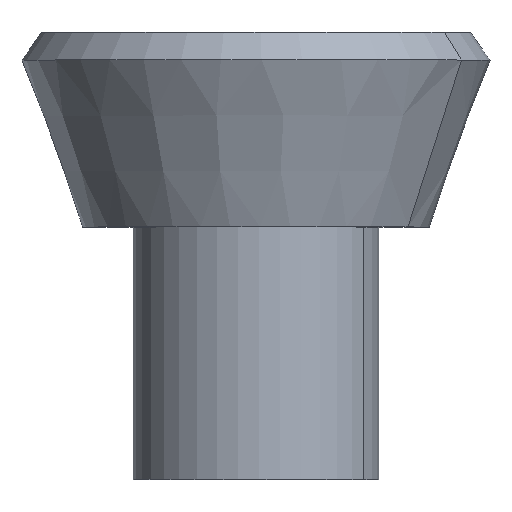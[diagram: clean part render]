
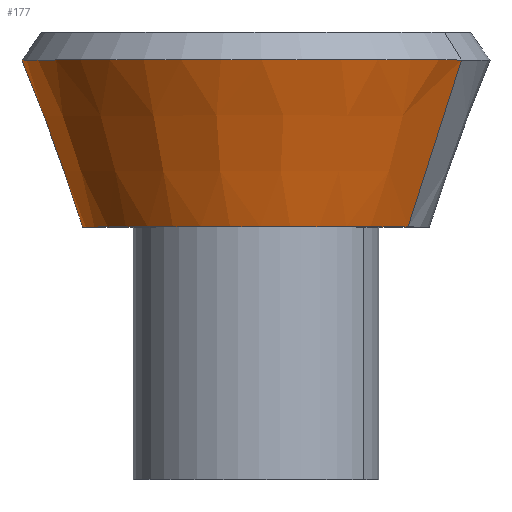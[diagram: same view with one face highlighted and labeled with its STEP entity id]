
A CAD part, top view. The second image highlights one B-rep face of the part: STEP entity #177.
In plain terms, the highlighted conical face has half-angle 20 degrees and reference radius 103 mm.
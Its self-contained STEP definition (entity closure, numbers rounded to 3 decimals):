
#114=CARTESIAN_POINT('Axis2P3D Location',(0.,0.,0.)) ;
#118=CARTESIAN_POINT('Vertex',(90.391,0.,49.381)) ;
#120=CARTESIAN_POINT('Vertex',(-90.391,0.,-49.381)) ;
#147=CARTESIAN_POINT('Axis2P3D Location',(0.,0.,0.)) ;
#152=CARTESIAN_POINT('Line Origine',(106.234,49.6,58.036)) ;
#156=CARTESIAN_POINT('Vertex',(122.077,99.199,66.691)) ;
#159=CARTESIAN_POINT('Axis2P3D Location',(0.,99.199,0.)) ;
#163=CARTESIAN_POINT('Vertex',(-122.077,99.199,-66.691)) ;
#166=CARTESIAN_POINT('Line Origine',(-106.234,49.6,-58.036)) ;
#115=DIRECTION('Axis2P3D Direction',(0.,-1.,0.)) ;
#148=DIRECTION('Axis2P3D Direction',(-0.,1.,-0.)) ;
#149=DIRECTION('Axis2P3D XDirection',(0.878,0.,0.479)) ;
#153=DIRECTION('Vector Direction',(0.3,0.94,0.164)) ;
#160=DIRECTION('Axis2P3D Direction',(0.,1.,-0.)) ;
#167=DIRECTION('Vector Direction',(-0.3,0.94,-0.164)) ;
#116=AXIS2_PLACEMENT_3D('Circle Axis2P3D',#114,#115,$) ;
#150=AXIS2_PLACEMENT_3D('Cone Axis2P3D',#147,#148,#149) ;
#161=AXIS2_PLACEMENT_3D('Circle Axis2P3D',#159,#160,$) ;
#172=ORIENTED_EDGE('',*,*,#122,.F.) ;
#173=ORIENTED_EDGE('',*,*,#158,.T.) ;
#174=ORIENTED_EDGE('',*,*,#165,.T.) ;
#175=ORIENTED_EDGE('',*,*,#170,.F.) ;
#154=VECTOR('Line Direction',#153,1.) ;
#168=VECTOR('Line Direction',#167,1.) ;
#177=ADVANCED_FACE('PartBody',(#176),#151,.T.) ;
#117=CIRCLE('generated circle',#116,103.) ;
#162=CIRCLE('generated circle',#161,139.106) ;
#151=CONICAL_SURFACE('Cone',#150,103.,0.349) ;
#122=EDGE_CURVE('',#119,#121,#117,.T.) ;
#158=EDGE_CURVE('',#119,#157,#155,.T.) ;
#165=EDGE_CURVE('',#157,#164,#162,.F.) ;
#170=EDGE_CURVE('',#121,#164,#169,.T.) ;
#171=EDGE_LOOP('',(#172,#173,#174,#175)) ;
#176=FACE_OUTER_BOUND('',#171,.T.) ;
#155=LINE('Line',#152,#154) ;
#169=LINE('Line',#166,#168) ;
#119=VERTEX_POINT('',#118) ;
#121=VERTEX_POINT('',#120) ;
#157=VERTEX_POINT('',#156) ;
#164=VERTEX_POINT('',#163) ;
